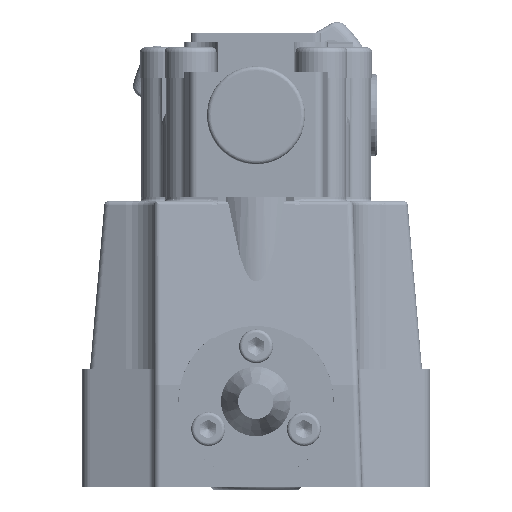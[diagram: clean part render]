
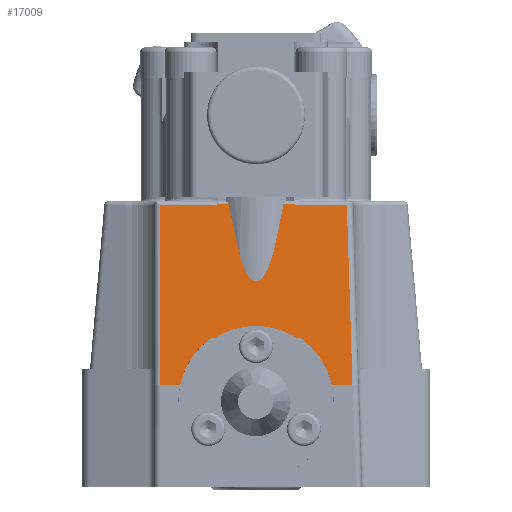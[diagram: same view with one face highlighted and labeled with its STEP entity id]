
A CAD part, left-side view. The second image highlights one B-rep face of the part: STEP entity #17009.
In plain terms, the highlighted planar face has unit normal (-0.993, 0, 0.121).
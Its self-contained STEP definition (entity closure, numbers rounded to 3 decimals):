
#75=ELLIPSE('',#20708,89.887,10.9);
#76=ELLIPSE('',#20709,13.194,1.6);
#77=ELLIPSE('',#20710,19.141,19.);
#78=ELLIPSE('',#20711,2.141,2.125);
#79=ELLIPSE('',#20712,19.141,19.);
#80=ELLIPSE('',#20713,12.376,1.5);
#1238=FACE_OUTER_BOUND('',#5664,.T.);
#2006=B_SPLINE_CURVE_WITH_KNOTS('',3,(#86095,#86096,#86097,#86098),
 .UNSPECIFIED.,.F.,.F.,(4,4),(0.,1.),.UNSPECIFIED.);
#2007=B_SPLINE_CURVE_WITH_KNOTS('',3,(#86111,#86112,#86113,#86114,#86115,
#86116,#86117,#86118,#86119,#86120,#86121,#86122,#86123),.UNSPECIFIED.,
 .F.,.F.,(4,3,3,3,4),(0.,0.266,0.557,0.849,
1.),.UNSPECIFIED.);
#2008=B_SPLINE_CURVE_WITH_KNOTS('',3,(#86136,#86137,#86138,#86139),
 .UNSPECIFIED.,.F.,.F.,(4,4),(0.,1.),.UNSPECIFIED.);
#2837=LINE('',#85570,#3721);
#2875=LINE('',#86087,#3759);
#2876=LINE('',#86091,#3760);
#2877=LINE('',#86100,#3761);
#2878=LINE('',#86102,#3762);
#2879=LINE('',#86104,#3763);
#2880=LINE('',#86108,#3764);
#2881=LINE('',#86128,#3765);
#2882=LINE('',#86132,#3766);
#2883=LINE('',#86134,#3767);
#2884=LINE('',#86141,#3768);
#3721=VECTOR('',#24103,1.);
#3759=VECTOR('',#24343,1.);
#3760=VECTOR('',#24346,1.);
#3761=VECTOR('',#24351,1.);
#3762=VECTOR('',#24352,1.);
#3763=VECTOR('',#24353,1.);
#3764=VECTOR('',#24356,1.);
#3765=VECTOR('',#24363,1.);
#3766=VECTOR('',#24366,1.);
#3767=VECTOR('',#24367,1.);
#3768=VECTOR('',#24368,1.);
#4398=PLANE('',#20714);
#5664=EDGE_LOOP('',(#9300,#9301,#9302,#9303,#9304,#9305,#9306,#9307,#9308,
#9309,#9310,#9311,#9312,#9313,#9314,#9315,#9316,#9317,#9318,#9319));
#9300=ORIENTED_EDGE('',*,*,#12560,.F.);
#9301=ORIENTED_EDGE('',*,*,#12432,.T.);
#9302=ORIENTED_EDGE('',*,*,#12561,.T.);
#9303=ORIENTED_EDGE('',*,*,#12562,.T.);
#9304=ORIENTED_EDGE('',*,*,#12563,.T.);
#9305=ORIENTED_EDGE('',*,*,#12564,.F.);
#9306=ORIENTED_EDGE('',*,*,#12565,.T.);
#9307=ORIENTED_EDGE('',*,*,#12566,.T.);
#9308=ORIENTED_EDGE('',*,*,#12567,.T.);
#9309=ORIENTED_EDGE('',*,*,#12557,.F.);
#9310=ORIENTED_EDGE('',*,*,#12568,.F.);
#9311=ORIENTED_EDGE('',*,*,#12569,.F.);
#9312=ORIENTED_EDGE('',*,*,#12559,.F.);
#9313=ORIENTED_EDGE('',*,*,#12570,.T.);
#9314=ORIENTED_EDGE('',*,*,#12571,.T.);
#9315=ORIENTED_EDGE('',*,*,#12572,.T.);
#9316=ORIENTED_EDGE('',*,*,#12573,.T.);
#9317=ORIENTED_EDGE('',*,*,#12574,.T.);
#9318=ORIENTED_EDGE('',*,*,#12575,.T.);
#9319=ORIENTED_EDGE('',*,*,#12576,.T.);
#12432=EDGE_CURVE('',#18907,#18909,#2837,.T.);
#12557=EDGE_CURVE('',#18997,#18998,#2875,.T.);
#12559=EDGE_CURVE('',#18999,#18995,#2876,.T.);
#12560=EDGE_CURVE('',#18907,#19000,#75,.T.);
#12561=EDGE_CURVE('',#18909,#19001,#2006,.T.);
#12562=EDGE_CURVE('',#19001,#19002,#2877,.T.);
#12563=EDGE_CURVE('',#19002,#19003,#2878,.T.);
#12564=EDGE_CURVE('',#19004,#19003,#2879,.T.);
#12565=EDGE_CURVE('',#19004,#19005,#76,.T.);
#12566=EDGE_CURVE('',#19005,#19006,#2880,.T.);
#12567=EDGE_CURVE('',#19006,#18998,#77,.T.);
#12568=EDGE_CURVE('',#19007,#18997,#2007,.T.);
#12569=EDGE_CURVE('',#18995,#19007,#78,.T.);
#12570=EDGE_CURVE('',#18999,#19008,#79,.T.);
#12571=EDGE_CURVE('',#19008,#19009,#2881,.T.);
#12572=EDGE_CURVE('',#19009,#19010,#80,.T.);
#12573=EDGE_CURVE('',#19010,#19011,#2882,.T.);
#12574=EDGE_CURVE('',#19011,#19012,#2883,.T.);
#12575=EDGE_CURVE('',#19012,#19013,#2008,.T.);
#12576=EDGE_CURVE('',#19013,#19000,#2884,.T.);
#17009=ADVANCED_FACE('',(#1238),#4398,.F.);
#18907=VERTEX_POINT('',#85553);
#18909=VERTEX_POINT('',#85569);
#18995=VERTEX_POINT('',#86055);
#18997=VERTEX_POINT('',#86086);
#18998=VERTEX_POINT('',#86088);
#18999=VERTEX_POINT('',#86090);
#19000=VERTEX_POINT('',#86094);
#19001=VERTEX_POINT('',#86099);
#19002=VERTEX_POINT('',#86101);
#19003=VERTEX_POINT('',#86103);
#19004=VERTEX_POINT('',#86105);
#19005=VERTEX_POINT('',#86107);
#19006=VERTEX_POINT('',#86109);
#19007=VERTEX_POINT('',#86124);
#19008=VERTEX_POINT('',#86127);
#19009=VERTEX_POINT('',#86129);
#19010=VERTEX_POINT('',#86131);
#19011=VERTEX_POINT('',#86133);
#19012=VERTEX_POINT('',#86135);
#19013=VERTEX_POINT('',#86140);
#20708=AXIS2_PLACEMENT_3D('',#86093,#24349,#24350);
#20709=AXIS2_PLACEMENT_3D('',#86106,#24354,#24355);
#20710=AXIS2_PLACEMENT_3D('',#86110,#24357,#24358);
#20711=AXIS2_PLACEMENT_3D('',#86125,#24359,#24360);
#20712=AXIS2_PLACEMENT_3D('',#86126,#24361,#24362);
#20713=AXIS2_PLACEMENT_3D('',#86130,#24364,#24365);
#20714=AXIS2_PLACEMENT_3D('',#86142,#24369,#24370);
#24103=DIRECTION('',(0.,1.,0.));
#24343=DIRECTION('',(0.,1.,0.));
#24346=DIRECTION('',(0.,1.,0.));
#24349=DIRECTION('',(-0.993,0.,0.121));
#24350=DIRECTION('',(0.121,0.,0.993));
#24351=DIRECTION('',(0.,1.,0.));
#24352=DIRECTION('',(-0.121,0.,-0.993));
#24353=DIRECTION('',(0.,1.,0.));
#24354=DIRECTION('',(-0.993,0.,0.121));
#24355=DIRECTION('',(0.121,0.,0.993));
#24356=DIRECTION('',(0.,-1.,0.));
#24357=DIRECTION('',(0.993,0.,-0.121));
#24358=DIRECTION('',(-0.121,0.,-0.993));
#24359=DIRECTION('',(-0.993,0.,0.121));
#24360=DIRECTION('',(0.121,0.,0.993));
#24361=DIRECTION('',(0.993,0.,-0.121));
#24362=DIRECTION('',(-0.121,0.,-0.993));
#24363=DIRECTION('',(0.,-1.,0.));
#24364=DIRECTION('',(-0.993,0.,0.121));
#24365=DIRECTION('',(-0.121,-0.032,-0.992));
#24366=DIRECTION('',(0.121,0.031,0.992));
#24367=DIRECTION('',(0.,1.,0.));
#24368=DIRECTION('',(0.,1.,0.));
#24369=DIRECTION('',(0.993,0.,-0.121));
#24370=DIRECTION('',(-0.121,0.,-0.993));
#85553=CARTESIAN_POINT('',(72.524,78.316,32.815));
#85569=CARTESIAN_POINT('',(72.524,80.899,32.815));
#85570=CARTESIAN_POINT('',(72.524,93.702,32.815));
#86055=CARTESIAN_POINT('',(68.521,70.755,0.051));
#86086=CARTESIAN_POINT('',(68.521,72.873,0.051));
#86087=CARTESIAN_POINT('',(68.521,49.549,0.051));
#86088=CARTESIAN_POINT('',(68.521,82.7,0.051));
#86090=CARTESIAN_POINT('',(68.521,60.551,0.051));
#86091=CARTESIAN_POINT('',(68.521,49.549,0.051));
#86093=CARTESIAN_POINT('',(81.121,71.615,103.191));
#86094=CARTESIAN_POINT('',(72.524,64.915,32.815));
#86095=CARTESIAN_POINT('',(72.524,80.899,32.815));
#86096=CARTESIAN_POINT('',(72.517,81.393,32.757));
#86097=CARTESIAN_POINT('',(72.514,81.892,32.734));
#86098=CARTESIAN_POINT('',(72.514,82.389,32.734));
#86099=CARTESIAN_POINT('',(72.514,82.389,32.734));
#86100=CARTESIAN_POINT('',(72.514,93.708,32.734));
#86101=CARTESIAN_POINT('',(72.514,95.126,32.734));
#86102=CARTESIAN_POINT('',(72.621,95.126,33.612));
#86103=CARTESIAN_POINT('',(67.124,95.126,-11.388));
#86104=CARTESIAN_POINT('',(67.124,93.702,-11.388));
#86105=CARTESIAN_POINT('',(67.124,95.117,-11.388));
#86106=CARTESIAN_POINT('',(68.721,95.026,1.688));
#86107=CARTESIAN_POINT('',(67.121,95.026,-11.409));
#86108=CARTESIAN_POINT('',(67.121,71.626,-11.409));
#86109=CARTESIAN_POINT('',(67.121,90.204,-11.409));
#86110=CARTESIAN_POINT('',(66.635,71.626,-15.388));
#86111=CARTESIAN_POINT('',(68.531,70.956,0.129));
#86112=CARTESIAN_POINT('',(68.542,71.11,0.22));
#86113=CARTESIAN_POINT('',(68.55,71.28,0.287));
#86114=CARTESIAN_POINT('',(68.555,71.455,0.326));
#86115=CARTESIAN_POINT('',(68.56,71.645,0.37));
#86116=CARTESIAN_POINT('',(68.562,71.846,0.38));
#86117=CARTESIAN_POINT('',(68.559,72.04,0.359));
#86118=CARTESIAN_POINT('',(68.556,72.235,0.338));
#86119=CARTESIAN_POINT('',(68.55,72.43,0.283));
#86120=CARTESIAN_POINT('',(68.54,72.608,0.201));
#86121=CARTESIAN_POINT('',(68.534,72.7,0.158));
#86122=CARTESIAN_POINT('',(68.528,72.789,0.108));
#86123=CARTESIAN_POINT('',(68.521,72.873,0.051));
#86124=CARTESIAN_POINT('',(68.531,70.956,0.129));
#86125=CARTESIAN_POINT('',(68.285,71.626,-1.888));
#86126=CARTESIAN_POINT('',(66.635,71.626,-15.388));
#86127=CARTESIAN_POINT('',(67.121,53.047,-11.409));
#86128=CARTESIAN_POINT('',(67.121,71.626,-11.409));
#86129=CARTESIAN_POINT('',(67.121,48.034,-11.409));
#86130=CARTESIAN_POINT('',(68.621,48.42,0.87));
#86131=CARTESIAN_POINT('',(67.121,48.029,-11.409));
#86132=CARTESIAN_POINT('',(72.622,49.444,33.616));
#86133=CARTESIAN_POINT('',(72.514,49.416,32.734));
#86134=CARTESIAN_POINT('',(72.514,93.708,32.734));
#86135=CARTESIAN_POINT('',(72.514,60.862,32.734));
#86136=CARTESIAN_POINT('',(72.514,60.862,32.734));
#86137=CARTESIAN_POINT('',(72.514,61.359,32.734));
#86138=CARTESIAN_POINT('',(72.517,61.858,32.757));
#86139=CARTESIAN_POINT('',(72.524,62.352,32.815));
#86140=CARTESIAN_POINT('',(72.524,62.352,32.815));
#86141=CARTESIAN_POINT('',(72.524,93.702,32.815));
#86142=CARTESIAN_POINT('',(72.621,49.549,33.612));
